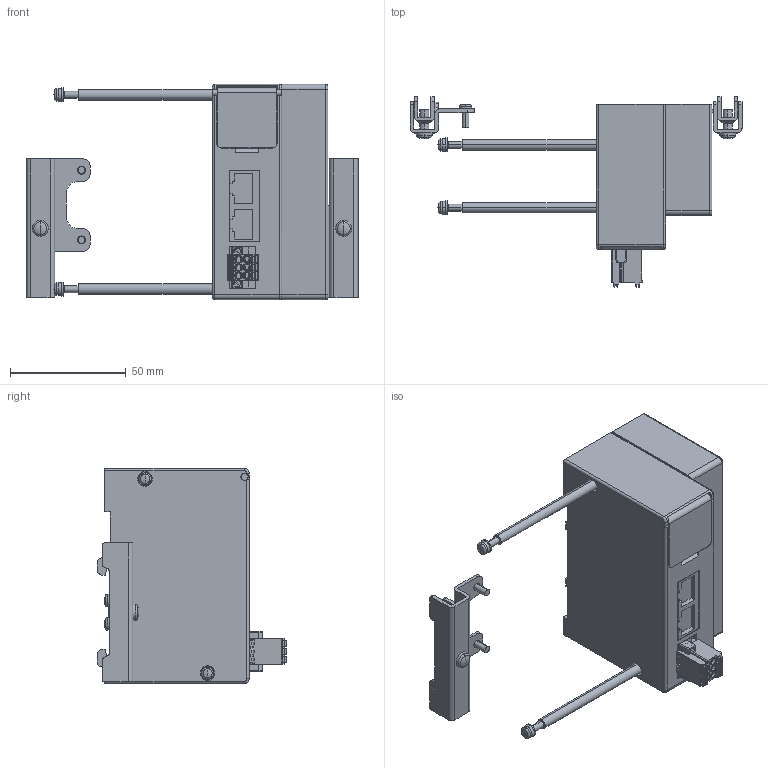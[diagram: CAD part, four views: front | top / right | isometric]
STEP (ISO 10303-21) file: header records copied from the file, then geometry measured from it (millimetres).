
FILE_DESCRIPTION( (''), '2;1');
FILE_NAME ('YS8EK3-3-DN.stp','2022-12-01T14:37:23',(''),(''),'spGate 12.6.6','','');
FILE_SCHEMA (('AUTOMOTIVE_DESIGN'));
Length unit declared in the file: millimetre
Products named in the file (3): Assembly; YS8EK3-3-DN-prt0; YS8EK3-3-DN-prt1
Assembly tree (3 placements, depth 2):
  Assembly
    YS8EK3-3-DN-prt0
    YS8EK3-3-DN-prt1  x2
Bounding box: 143.5 x 82.1 x 93 mm (x, y, z)
Volume: 265649.5 mm3; surface area: 46916.5 mm2
Topology: 3 solids, 3 shells, 971 faces, 2541 edges, 1629 vertices
Faces by surface type: plane 563, cylinder 310, bspline 82, sphere 16
Entity records: 43962 total; most frequent: CARTESIAN_POINT 6025, ORIENTED_EDGE 4360, DIRECTION 4124, COLOUR_RGB 3022, PRESENTATION_STYLE_ASSIGNMENT 3022, STYLED_ITEM 3022, EDGE_CURVE 2180, DRAUGHTING_PRE_DEFINED_CURVE_FONT 2180
